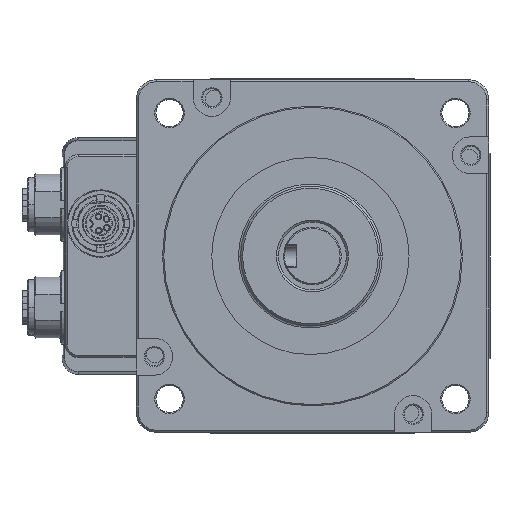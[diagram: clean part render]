
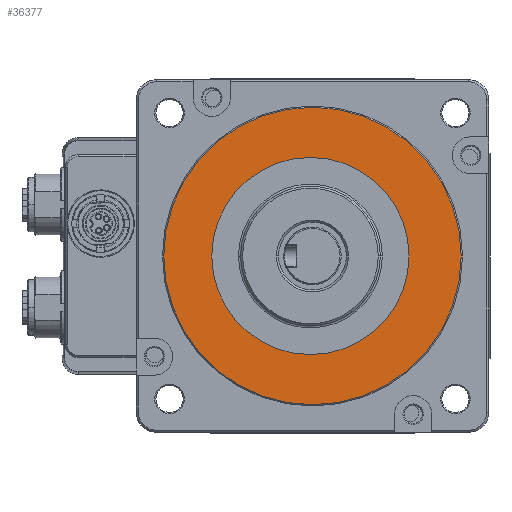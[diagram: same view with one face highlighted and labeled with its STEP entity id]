
A CAD part, left-side view. The second image highlights one B-rep face of the part: STEP entity #36377.
In plain terms, the highlighted planar face has unit normal (-1, 0, 0) as drawn and (0, -1, 0) by its records, which use the part's own axes.
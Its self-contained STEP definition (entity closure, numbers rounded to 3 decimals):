
#33631=CARTESIAN_POINT('',(46.966,-2.,63.564));
#33632=DIRECTION('',(0.,1.,0.));
#33633=DIRECTION('',(1.,0.,0.));
#33634=AXIS2_PLACEMENT_3D('',#33631,#33632,#33633);
#33639=CARTESIAN_POINT('',(46.966,-2.,63.564));
#33640=DIRECTION('',(0.,1.,0.));
#33641=DIRECTION('',(0.,0.,1.));
#33642=AXIS2_PLACEMENT_3D('',#33639,#33640,#33641);
#33647=CARTESIAN_POINT('',(46.966,-2.,63.564));
#33648=DIRECTION('',(0.,1.,0.));
#33649=DIRECTION('',(-1.,0.,0.));
#33650=AXIS2_PLACEMENT_3D('',#33647,#33648,#33649);
#33655=CARTESIAN_POINT('',(46.966,-2.,63.564));
#33656=DIRECTION('',(0.,1.,0.));
#33657=DIRECTION('',(0.,0.,-1.));
#33658=AXIS2_PLACEMENT_3D('',#33655,#33656,#33657);
#33663=CARTESIAN_POINT('',(46.966,-2.,64.064));
#33664=DIRECTION('',(0.,-1.,0.));
#33665=DIRECTION('',(0.,0.,1.));
#33666=AXIS2_PLACEMENT_3D('',#33663,#33664,#33665);
#33671=CARTESIAN_POINT('',(46.966,-2.,64.064));
#33672=DIRECTION('',(0.,-1.,0.));
#33673=DIRECTION('',(0.,0.,-1.));
#33674=AXIS2_PLACEMENT_3D('',#33671,#33672,#33673);
#35758=CARTESIAN_POINT('',(46.966,-2.,87.564));
#35760=VERTEX_POINT('',#35758);
#35762=CARTESIAN_POINT('',(46.966,-2.,39.564));
#35764=VERTEX_POINT('',#35762);
#35766=CARTESIAN_POINT('',(22.966,-2.,63.564));
#35767=VERTEX_POINT('',#35766);
#35768=CARTESIAN_POINT('',(70.966,-2.,63.564));
#35769=VERTEX_POINT('',#35768);
#35852=CARTESIAN_POINT('',(46.966,-2.,100.264));
#35853=CARTESIAN_POINT('',(46.966,-2.,27.864));
#35854=VERTEX_POINT('',#35852);
#35855=VERTEX_POINT('',#35853);
#36357=CARTESIAN_POINT('',(46.966,-2.,64.064));
#36358=DIRECTION('',(0.,1.,0.));
#36359=DIRECTION('',(0.,0.,1.));
#36360=AXIS2_PLACEMENT_3D('',#36357,#36358,#36359);
#36361=PLANE('',#36360);
#36362=ORIENTED_EDGE('',*,*,#36335,.F.);
#36364=ORIENTED_EDGE('',*,*,#36363,.F.);
#36365=EDGE_LOOP('',(#36362,#36364));
#36366=FACE_OUTER_BOUND('',#36365,.F.);
#36368=ORIENTED_EDGE('',*,*,#36367,.F.);
#36370=ORIENTED_EDGE('',*,*,#36369,.F.);
#36372=ORIENTED_EDGE('',*,*,#36371,.F.);
#36374=ORIENTED_EDGE('',*,*,#36373,.F.);
#36375=EDGE_LOOP('',(#36368,#36370,#36372,#36374));
#36376=FACE_BOUND('',#36375,.F.);
#33635=CIRCLE('',#33634,24.);
#33643=CIRCLE('',#33642,24.);
#33651=CIRCLE('',#33650,24.);
#33659=CIRCLE('',#33658,24.);
#33667=CIRCLE('',#33666,36.2);
#33675=CIRCLE('',#33674,36.2);
#36335=EDGE_CURVE('',#35854,#35855,#33667,.T.);
#36363=EDGE_CURVE('',#35855,#35854,#33675,.T.);
#36367=EDGE_CURVE('',#35769,#35764,#33635,.T.);
#36369=EDGE_CURVE('',#35760,#35769,#33643,.T.);
#36371=EDGE_CURVE('',#35767,#35760,#33651,.T.);
#36373=EDGE_CURVE('',#35764,#35767,#33659,.T.);
#36377=ADVANCED_FACE('',(#36366,#36376),#36361,.F.);
